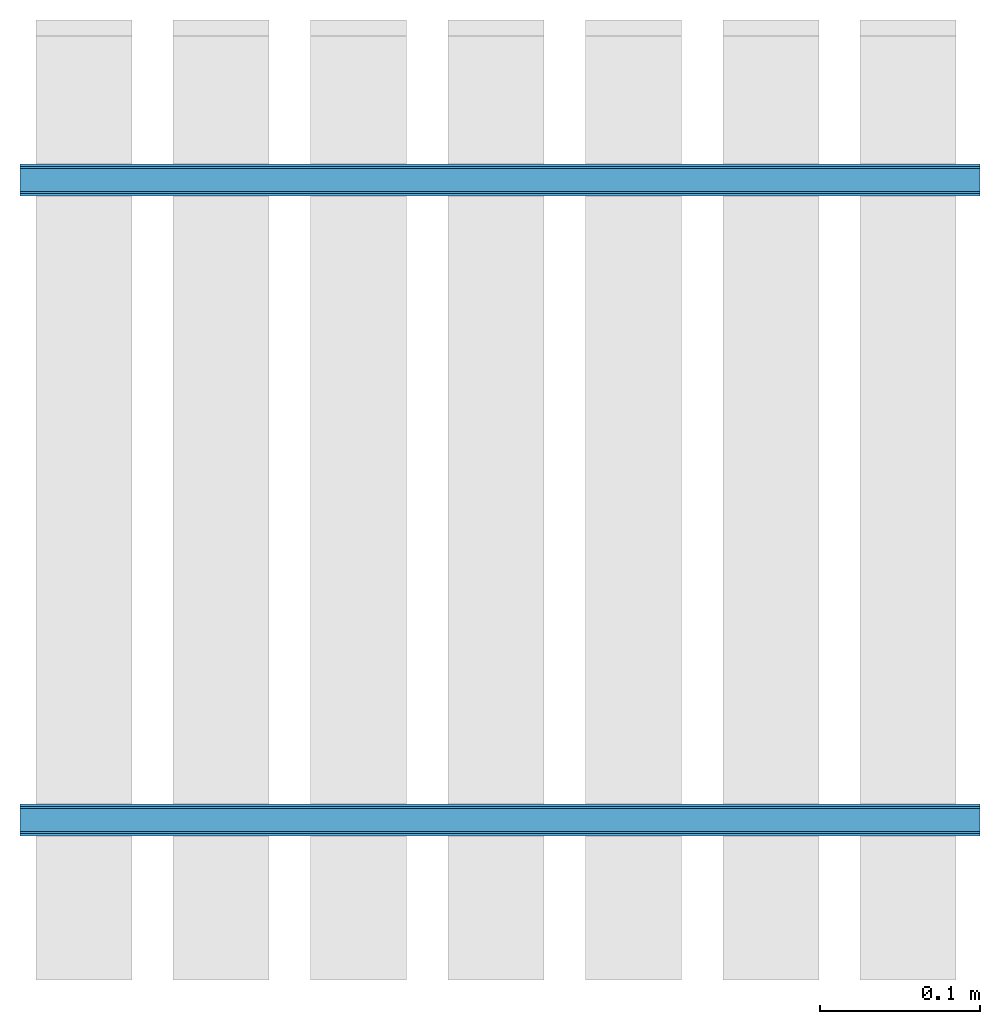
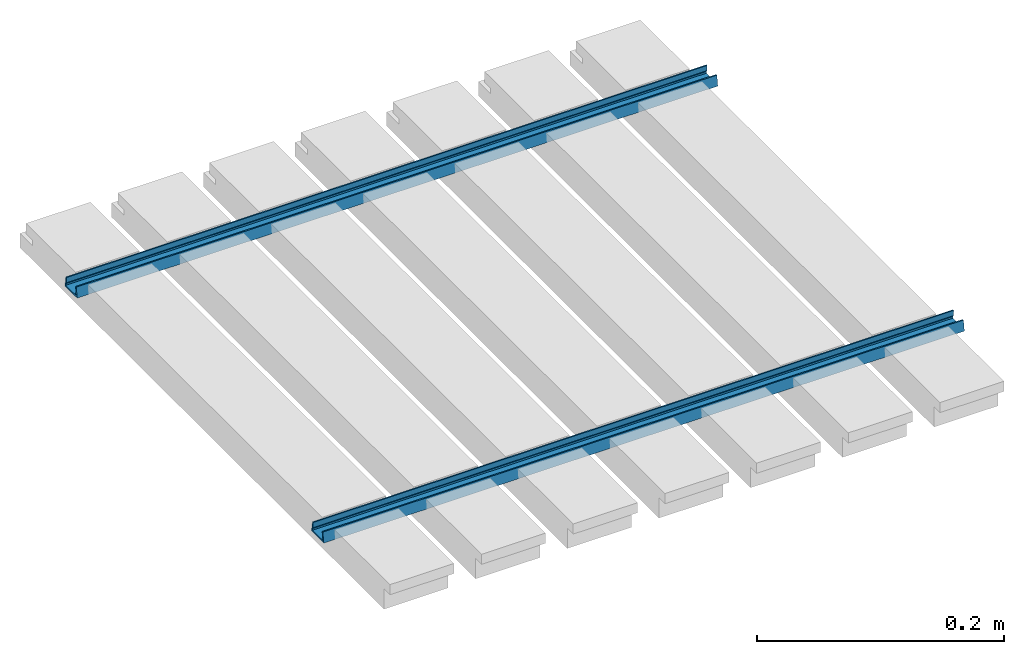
# One storey, part 1 of 2: 2 beams.
"""IFC2X3 building model written with IfcOpenShell, lengths in millimetres."""

from ifc_helpers import new_model, entity, si_unit, converted_unit, money_unit, direction, frame, origin_with_axes, place, context, subcontext, project, spatial, polyline, outline, extrude, material, type_object, element, save


model = new_model("IFC2X3")

# Units and contexts
model_context = context("Model", 3, precision=1e-05, world=origin_with_axes(), true_north=direction((0.0, 1.0)))
body_context = subcontext(model_context, "Body", "Model", "MODEL_VIEW")
ifc_project = project(units=[si_unit("LENGTHUNIT", "METRE", prefix="MILLI"), si_unit("AREAUNIT", "SQUARE_METRE"), si_unit("VOLUMEUNIT", "CUBIC_METRE"), converted_unit("PLANEANGLEUNIT", "DEGREE", entity("IfcPlaneAngleMeasure", 0.0174532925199), si_unit("PLANEANGLEUNIT", "RADIAN"), dimensions=[0, 0, 0, 0, 0, 0, 0]), si_unit("SOLIDANGLEUNIT", "STERADIAN"), money_unit("AUD"), si_unit("TIMEUNIT", "SECOND"), si_unit("MASSUNIT", "GRAM"), si_unit("THERMODYNAMICTEMPERATUREUNIT", "DEGREE_CELSIUS"), si_unit("LUMINOUSINTENSITYUNIT", "LUMEN")], contexts=[model_context])

# Site, building, storey
site_placement = place(None, origin_with_axes())
site = spatial("IfcSite", under=ifc_project, at=site_placement, Name="Site", CompositionType="ELEMENT")
building_placement = place(site_placement, origin_with_axes())
building = spatial("IfcBuilding", under=site, at=building_placement, Name="Building", CompositionType="ELEMENT")
storey_placement = place(building_placement, origin_with_axes())
storey = spatial("IfcBuildingStorey", under=building, at=storey_placement, Name="GROUND", CompositionType="ELEMENT", Elevation=0.0)

# Beams
ifc_material = material(Name="Brick - Internal Wall")
beam_type = type_object("IfcBeamType", Name="15MM GRID 20 x 10", PredefinedType="NOTDEFINED")
for number, where, z_axis, x_axis, name in (
    (1, (2.5, 100.0, 20.0), (0.0, 0.0, 1.0), (0.0, -1.0, 0.0), "BEAM-02"),
    (2, (2.5, 500.0, 20.0), (0.0, 0.0, 1.0), (0.0, -1.0, 0.0), "BEAM-02"),
):
    element("IfcBeam", number, at=place(storey_placement, frame(where, z_axis=z_axis, x_axis=x_axis)), inside=storey, type_object=beam_type, material=ifc_material, Name=name, ObjectType="15MM GRID 20 x 10", context=body_context, shape_type="SweptSolid", body=[
        extrude(outline(polyline([(10.0, 0.0), (8.5, 10.0), (7.26018347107, 10.0), (8.06268347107, 4.65), (7.26018347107, 3.5), (8.53518347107, 1.5), (-8.53518347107, 1.5), (-8.23518347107, 3.5), (-7.56832504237, 4.65), (-7.26018347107, 10.0), (-8.5, 10.0), (-10.0, 0.0), (10.0, 0.0)])), frame((0.0, 600.0, 0.0), z_axis=(0.0, -1.0, 0.0), x_axis=(1.0, 0.0, 0.0)), (0.0, 0.0, 1.0), 600.0),
    ])

save(model, "model.ifc")
